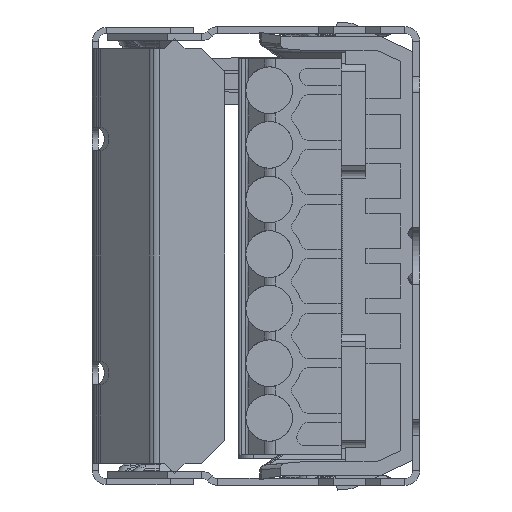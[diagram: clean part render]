
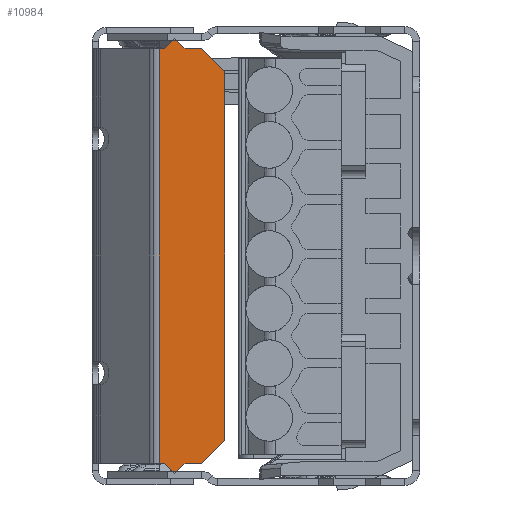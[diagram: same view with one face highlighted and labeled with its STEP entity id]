
A CAD part, left-side view. The second image highlights one B-rep face of the part: STEP entity #10984.
In plain terms, the highlighted planar face has unit normal (-1, 0, 0).
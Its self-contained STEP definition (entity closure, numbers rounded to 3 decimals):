
#533 = LINE ( 'NONE', #73672, #68676 ) ;
#1154 = LINE ( 'NONE', #28922, #53330 ) ;
#1775 = DIRECTION ( 'NONE',  ( 0., 0., 1. ) ) ;
#2645 = VERTEX_POINT ( 'NONE', #23896 ) ;
#2837 = CARTESIAN_POINT ( 'NONE',  ( -153.999, -5.299, -13.95 ) ) ;
#2848 = CARTESIAN_POINT ( 'NONE',  ( -153.999, -8.499, 11.8 ) ) ;
#3433 = LINE ( 'NONE', #13659, #39660 ) ;
#4211 = DIRECTION ( 'NONE',  ( 0., -1., 0. ) ) ;
#4961 = VECTOR ( 'NONE', #30487, 1000. ) ;
#5018 = ORIENTED_EDGE ( 'NONE', *, *, #68995, .F. ) ;
#7689 = LINE ( 'NONE', #69782, #78021 ) ;
#9952 = CARTESIAN_POINT ( 'NONE',  ( -153.999, -5.299, 13.95 ) ) ;
#10264 = CARTESIAN_POINT ( 'NONE',  ( -153.999, -6.999, 13.3 ) ) ;
#10984 = ADVANCED_FACE ( 'NONE', ( #85534 ), #83364, .T. ) ;
#11186 = VERTEX_POINT ( 'NONE', #12203 ) ;
#11522 = EDGE_CURVE ( 'NONE', #12766, #27791, #33245, .T. ) ;
#12203 = CARTESIAN_POINT ( 'NONE',  ( -153.999, -4.294, -13.3 ) ) ;
#12766 = VERTEX_POINT ( 'NONE', #40798 ) ;
#13422 = VERTEX_POINT ( 'NONE', #2837 ) ;
#13659 = CARTESIAN_POINT ( 'NONE',  ( -153.999, 1.811, 13.3 ) ) ;
#14507 = ORIENTED_EDGE ( 'NONE', *, *, #26280, .T. ) ;
#14729 = CARTESIAN_POINT ( 'NONE',  ( -153.999, -4.649, -13.3 ) ) ;
#15180 = VECTOR ( 'NONE', #44931, 1000. ) ;
#15229 = CARTESIAN_POINT ( 'NONE',  ( -153.999, -6.999, -13.3 ) ) ;
#17114 = EDGE_CURVE ( 'NONE', #13422, #48597, #1154, .T. ) ;
#20623 = LINE ( 'NONE', #48896, #54719 ) ;
#23878 = VERTEX_POINT ( 'NONE', #15229 ) ;
#23896 = CARTESIAN_POINT ( 'NONE',  ( -153.999, -4.649, -13.3 ) ) ;
#24297 = LINE ( 'NONE', #73717, #26447 ) ;
#25010 = ORIENTED_EDGE ( 'NONE', *, *, #17114, .T. ) ;
#25094 = CARTESIAN_POINT ( 'NONE',  ( -153.999, -8.499, 11.8 ) ) ;
#25151 = EDGE_CURVE ( 'NONE', #62088, #57654, #79537, .T. ) ;
#25255 = VECTOR ( 'NONE', #79575, 1000. ) ;
#26280 = EDGE_CURVE ( 'NONE', #84425, #11186, #533, .T. ) ;
#26447 = VECTOR ( 'NONE', #52873, 1000. ) ;
#27791 = VERTEX_POINT ( 'NONE', #2848 ) ;
#28922 = CARTESIAN_POINT ( 'NONE',  ( -153.999, -5.299, -13.95 ) ) ;
#29676 = VERTEX_POINT ( 'NONE', #40490 ) ;
#30487 = DIRECTION ( 'NONE',  ( 0., -0.707, -0.707 ) ) ;
#33245 = LINE ( 'NONE', #85717, #15180 ) ;
#35753 = DIRECTION ( 'NONE',  ( 0., -0.707, 0.707 ) ) ;
#36116 = EDGE_LOOP ( 'NONE', ( #5018, #14507, #70142, #70283, #25010, #67790, #54006, #66092, #63663, #65607, #45017, #85674 ) ) ;
#38175 = VECTOR ( 'NONE', #59336, 1000. ) ;
#39660 = VECTOR ( 'NONE', #54402, 1000. ) ;
#40490 = CARTESIAN_POINT ( 'NONE',  ( -153.999, -4.649, 13.3 ) ) ;
#40798 = CARTESIAN_POINT ( 'NONE',  ( -153.999, -8.499, -11.8 ) ) ;
#42595 = DIRECTION ( 'NONE',  ( -1., 0., 0. ) ) ;
#44553 = EDGE_CURVE ( 'NONE', #23878, #12766, #20623, .T. ) ;
#44931 = DIRECTION ( 'NONE',  ( 0., 0., 1. ) ) ;
#45011 = CARTESIAN_POINT ( 'NONE',  ( -153.999, 1.811, -13.3 ) ) ;
#45017 = ORIENTED_EDGE ( 'NONE', *, *, #25151, .F. ) ;
#45509 = LINE ( 'NONE', #25094, #25255 ) ;
#46609 = DIRECTION ( 'NONE',  ( 0., 0., -1. ) ) ;
#48597 = VERTEX_POINT ( 'NONE', #69632 ) ;
#48896 = CARTESIAN_POINT ( 'NONE',  ( -153.999, -6.999, -13.3 ) ) ;
#50147 = DIRECTION ( 'NONE',  ( 0., -0.707, 0.707 ) ) ;
#50389 = VECTOR ( 'NONE', #4211, 1000. ) ;
#51916 = EDGE_CURVE ( 'NONE', #57654, #73839, #24297, .T. ) ;
#52873 = DIRECTION ( 'NONE',  ( 0., -1., 0. ) ) ;
#53330 = VECTOR ( 'NONE', #35753, 1000. ) ;
#54006 = ORIENTED_EDGE ( 'NONE', *, *, #44553, .T. ) ;
#54402 = DIRECTION ( 'NONE',  ( 0., -1., 0. ) ) ;
#54719 = VECTOR ( 'NONE', #55753, 1000. ) ;
#55474 = DIRECTION ( 'NONE',  ( 0., -0.707, -0.707 ) ) ;
#55753 = DIRECTION ( 'NONE',  ( 0., -0.707, 0.707 ) ) ;
#56274 = LINE ( 'NONE', #79591, #38175 ) ;
#56351 = EDGE_CURVE ( 'NONE', #29676, #62088, #7689, .T. ) ;
#57654 = VERTEX_POINT ( 'NONE', #84752 ) ;
#59336 = DIRECTION ( 'NONE',  ( 0., -1., 0. ) ) ;
#62088 = VERTEX_POINT ( 'NONE', #70894 ) ;
#63346 = VECTOR ( 'NONE', #55474, 1000. ) ;
#63663 = ORIENTED_EDGE ( 'NONE', *, *, #73963, .T. ) ;
#64027 = AXIS2_PLACEMENT_3D ( 'NONE', #69639, #42595, #1775 ) ;
#65487 = LINE ( 'NONE', #14729, #63346 ) ;
#65607 = ORIENTED_EDGE ( 'NONE', *, *, #51916, .F. ) ;
#66092 = ORIENTED_EDGE ( 'NONE', *, *, #11522, .T. ) ;
#66330 = LINE ( 'NONE', #45011, #50389 ) ;
#67790 = ORIENTED_EDGE ( 'NONE', *, *, #73266, .T. ) ;
#68676 = VECTOR ( 'NONE', #46609, 1000. ) ;
#68995 = EDGE_CURVE ( 'NONE', #84425, #29676, #3433, .T. ) ;
#69632 = CARTESIAN_POINT ( 'NONE',  ( -153.999, -5.949, -13.3 ) ) ;
#69639 = CARTESIAN_POINT ( 'NONE',  ( -153.999, 300.811, 14.65 ) ) ;
#69782 = CARTESIAN_POINT ( 'NONE',  ( -153.999, -4.649, 13.3 ) ) ;
#70142 = ORIENTED_EDGE ( 'NONE', *, *, #85851, .T. ) ;
#70283 = ORIENTED_EDGE ( 'NONE', *, *, #80600, .T. ) ;
#70894 = CARTESIAN_POINT ( 'NONE',  ( -153.999, -5.299, 13.95 ) ) ;
#73266 = EDGE_CURVE ( 'NONE', #48597, #23878, #56274, .T. ) ;
#73672 = CARTESIAN_POINT ( 'NONE',  ( -153.999, -4.294, 14.65 ) ) ;
#73717 = CARTESIAN_POINT ( 'NONE',  ( -153.999, -5.949, 13.3 ) ) ;
#73839 = VERTEX_POINT ( 'NONE', #10264 ) ;
#73963 = EDGE_CURVE ( 'NONE', #27791, #73839, #45509, .T. ) ;
#75875 = CARTESIAN_POINT ( 'NONE',  ( -153.999, -4.294, 13.3 ) ) ;
#78021 = VECTOR ( 'NONE', #50147, 1000. ) ;
#79537 = LINE ( 'NONE', #9952, #4961 ) ;
#79575 = DIRECTION ( 'NONE',  ( 0., 0.707, 0.707 ) ) ;
#79591 = CARTESIAN_POINT ( 'NONE',  ( -153.999, -5.949, -13.3 ) ) ;
#80600 = EDGE_CURVE ( 'NONE', #2645, #13422, #65487, .T. ) ;
#83364 = PLANE ( 'NONE',  #64027 ) ;
#84425 = VERTEX_POINT ( 'NONE', #75875 ) ;
#84752 = CARTESIAN_POINT ( 'NONE',  ( -153.999, -5.949, 13.3 ) ) ;
#85534 = FACE_OUTER_BOUND ( 'NONE', #36116, .T. ) ;
#85674 = ORIENTED_EDGE ( 'NONE', *, *, #56351, .F. ) ;
#85717 = CARTESIAN_POINT ( 'NONE',  ( -153.999, -8.499, -11.8 ) ) ;
#85851 = EDGE_CURVE ( 'NONE', #11186, #2645, #66330, .T. ) ;
